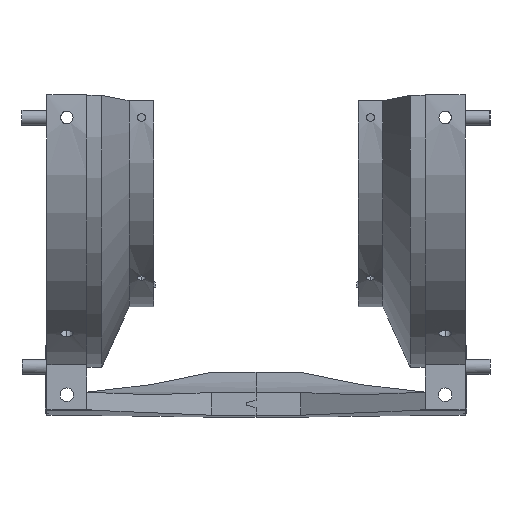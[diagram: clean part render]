
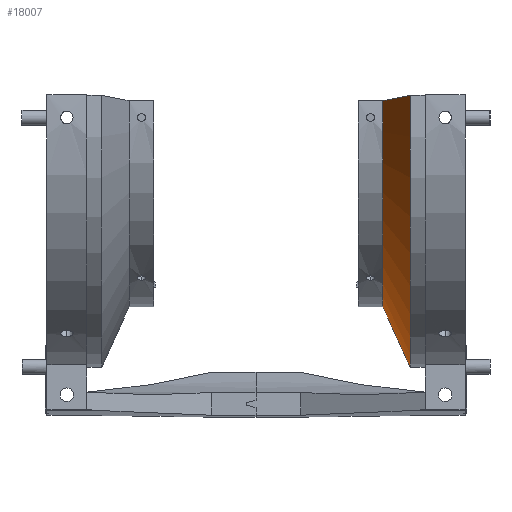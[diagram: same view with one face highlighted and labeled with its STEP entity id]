
A CAD part, left-side view. The second image highlights one B-rep face of the part: STEP entity #18007.
In plain terms, the highlighted conical face has half-angle 65.611 degrees and reference radius 50.151 mm.
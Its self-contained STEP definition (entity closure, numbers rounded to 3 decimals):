
#797 = EDGE_CURVE ( 'NONE', #11717, #16712, #10967, .T. ) ;
#1068 = DIRECTION ( 'NONE',  ( 0., -0.413, -0.911 ) ) ;
#1255 = LINE ( 'NONE', #15268, #15142 ) ;
#1741 = CARTESIAN_POINT ( 'NONE',  ( -58., -31., 0. ) ) ;
#1896 = DIRECTION ( 'NONE',  ( 0.584, 0., -0.812 ) ) ;
#2042 = DIRECTION ( 'NONE',  ( 0., 0., -1. ) ) ;
#2052 = CONICAL_SURFACE ( 'NONE', #3393, 50.151, 1.145 ) ;
#3177 = CARTESIAN_POINT ( 'NONE',  ( -95.868, -25.5, 3.397 ) ) ;
#3254 = DIRECTION ( 'NONE',  ( 0., 1., 0. ) ) ;
#3393 = AXIS2_PLACEMENT_3D ( 'NONE', #1741, #10016, #2042 ) ;
#3408 = CARTESIAN_POINT ( 'NONE',  ( -58., -31., -50.151 ) ) ;
#3423 = ORIENTED_EDGE ( 'NONE', *, *, #18598, .T. ) ;
#6469 = CARTESIAN_POINT ( 'NONE',  ( -107.95, -31., 4.481 ) ) ;
#7562 = ORIENTED_EDGE ( 'NONE', *, *, #10522, .F. ) ;
#8055 = ORIENTED_EDGE ( 'NONE', *, *, #10800, .T. ) ;
#8165 = CARTESIAN_POINT ( 'NONE',  ( -58., -31., 0. ) ) ;
#9184 = CARTESIAN_POINT ( 'NONE',  ( -95.868, -25.5, 3.397 ) ) ;
#10016 = DIRECTION ( 'NONE',  ( 0., -1., 0. ) ) ;
#10157 = VECTOR ( 'NONE', #15415, 1000. ) ;
#10472 = AXIS2_PLACEMENT_3D ( 'NONE', #17342, #3254, #1896 ) ;
#10522 = EDGE_CURVE ( 'NONE', #19809, #16712, #17425, .T. ) ;
#10800 = EDGE_CURVE ( 'NONE', #19809, #14130, #1255, .T. ) ;
#10967 = LINE ( 'NONE', #9184, #10157 ) ;
#11717 = VERTEX_POINT ( 'NONE', #6469 ) ;
#13049 = DIRECTION ( 'NONE',  ( 0., 1., 0. ) ) ;
#13328 = ORIENTED_EDGE ( 'NONE', *, *, #797, .T. ) ;
#14130 = VERTEX_POINT ( 'NONE', #3408 ) ;
#15142 = VECTOR ( 'NONE', #1068, 1000. ) ;
#15268 = CARTESIAN_POINT ( 'NONE',  ( -58., -31., -50.151 ) ) ;
#15415 = DIRECTION ( 'NONE',  ( 0.907, 0.413, -0.081 ) ) ;
#16685 = CARTESIAN_POINT ( 'NONE',  ( -58., -25.5, -38.02 ) ) ;
#16712 = VERTEX_POINT ( 'NONE', #3177 ) ;
#17316 = EDGE_LOOP ( 'NONE', ( #7562, #8055, #3423, #13328 ) ) ;
#17342 = CARTESIAN_POINT ( 'NONE',  ( -58., -25.5, 0. ) ) ;
#17425 = CIRCLE ( 'NONE', #10472, 38.02 ) ;
#18007 = ADVANCED_FACE ( 'NONE', ( #19339 ), #2052, .T. ) ;
#18264 = CIRCLE ( 'NONE', #19254, 50.151 ) ;
#18598 = EDGE_CURVE ( 'NONE', #14130, #11717, #18264, .T. ) ;
#19254 = AXIS2_PLACEMENT_3D ( 'NONE', #8165, #13049, #19356 ) ;
#19339 = FACE_OUTER_BOUND ( 'NONE', #17316, .T. ) ;
#19356 = DIRECTION ( 'NONE',  ( 0.584, 0., -0.812 ) ) ;
#19809 = VERTEX_POINT ( 'NONE', #16685 ) ;
